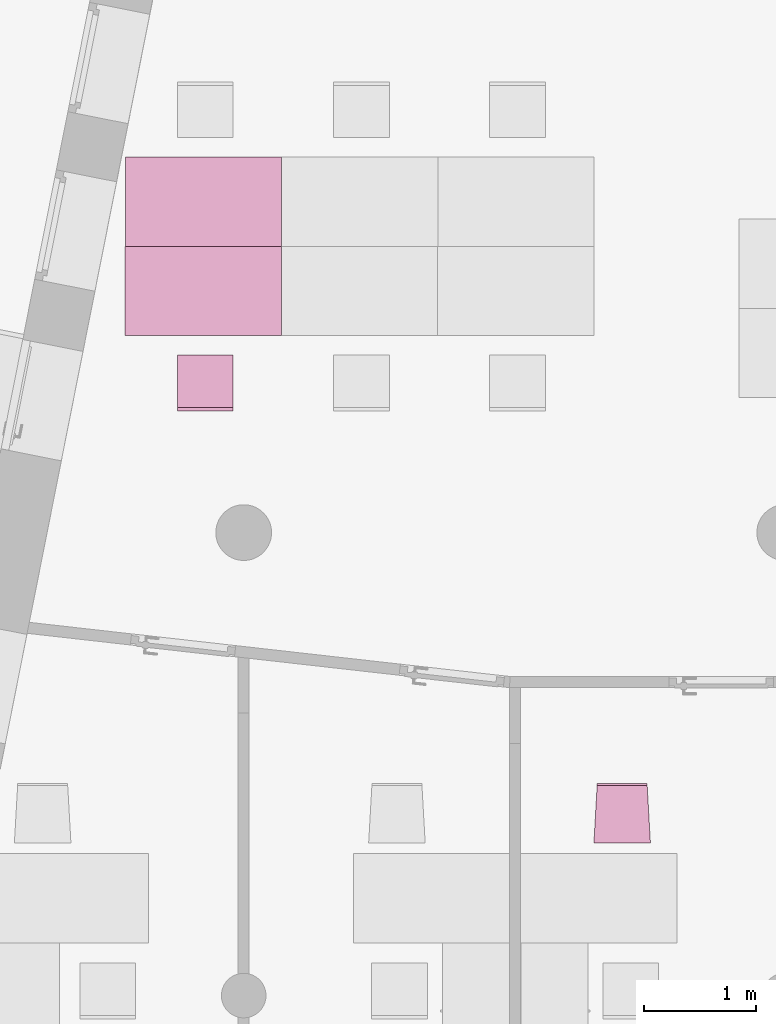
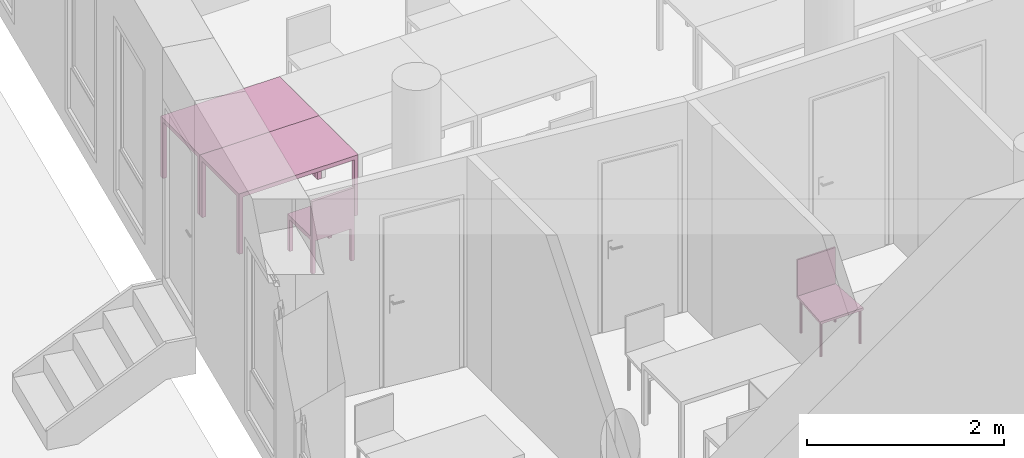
"""IFC4 building model written with IfcOpenShell, lengths in metres."""

from ifc_helpers import new_model, entity, si_unit, converted_unit, derived_unit, frame, origin, place, context, subcontext, project, spatial, faceted_brep, element, save


model = new_model("IFC4")

# Units and contexts
model_context = context("Model", 3, precision=1e-05, world=origin())
body_context = subcontext(model_context, "Body", "Model", "MODEL_VIEW")
ifc_project = project(units=[si_unit("LENGTHUNIT", "METRE"), si_unit("AREAUNIT", "SQUARE_METRE"), si_unit("VOLUMEUNIT", "CUBIC_METRE"), si_unit("MASSUNIT", "GRAM", prefix="KILO"), converted_unit("PLANEANGLEUNIT", "DEGREE", entity("IfcPlaneAngleMeasure", 0.0174532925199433), si_unit("PLANEANGLEUNIT", "RADIAN"), dimensions=[0, 0, 0, 0, 0, 0, 0]), derived_unit("THERMALTRANSMITTANCEUNIT", [(si_unit("POWERUNIT", "WATT"), 1), (si_unit("THERMODYNAMICTEMPERATUREUNIT", "KELVIN"), -1), (si_unit("LENGTHUNIT", "METRE"), -2)]), derived_unit("VOLUMETRICFLOWRATEUNIT", [(si_unit("LENGTHUNIT", "METRE"), 3), (converted_unit("TIMEUNIT", "hour", entity("IfcTimeMeasure", 3600.0), si_unit("TIMEUNIT", "SECOND"), dimensions=[0, 0, 1, 0, 0, 0, 0]), -1), (si_unit("LENGTHUNIT", "METRE"), -1)])], contexts=[model_context])

# Building, storeys
building_placement = place(None, origin())
building = spatial("IfcBuilding", under=ifc_project, at=building_placement, Name="HABITATGE PLURIFAMILIAR", CompositionType="ELEMENT")
storey_1_placement = place(building_placement, frame((0.0, 0.0, 6.25)))
storey_1 = spatial("IfcBuildingStorey", under=building, at=storey_1_placement, Name="PLANTA PRIMERA", CompositionType="ELEMENT", Elevation=6.25)
storey_2_placement = place(storey_1_placement, frame((0.0, 0.0, 3.35)))
storey_2 = spatial("IfcBuildingStorey", under=storey_1, at=storey_2_placement, Name="NOU", CompositionType="PARTIAL")

# Furniture
furniture_1_placement = place(storey_2_placement, frame((399.923590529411, 19.564860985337, -3.35)))
element("IfcFurniture", 1, at=furniture_1_placement, inside=storey_2, Name="Taula 140X80_P1", context=body_context, shape_type="Brep", body=[
    faceted_brep([(1.40000000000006, 0.05, 0.0), (1.35357142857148, 0.05, 0.0), (1.35357142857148, 0.0, 0.0), (1.40000000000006, 0.0, 0.0), (1.40000000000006, 0.0, 0.7), (1.35357142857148, 0.0, 0.7), (1.35357142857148, 0.05, 0.7), (1.40000000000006, 0.05, 0.7)], [[[0, 1, 2, 3]], [[4, 5, 6, 7]], [[3, 4, 7, 0]], [[2, 5, 4, 3]], [[1, 6, 5, 2]], [[0, 7, 6, 1]]], orient=[[False], [False], [False], [False], [False], [False]]),
    faceted_brep([(1.40000000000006, 0.800069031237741, 0.0), (1.35357142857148, 0.800069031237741, 0.0), (1.35357142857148, 0.750069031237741, 0.0), (1.40000000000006, 0.750069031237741, 0.0), (1.40000000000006, 0.750069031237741, 0.7), (1.35357142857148, 0.750069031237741, 0.7), (1.35357142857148, 0.800069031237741, 0.7), (1.40000000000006, 0.800069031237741, 0.7)], [[[0, 1, 2, 3]], [[4, 5, 6, 7]], [[3, 4, 7, 0]], [[2, 5, 4, 3]], [[1, 6, 5, 2]], [[0, 7, 6, 1]]], orient=[[False], [False], [False], [False], [False], [False]]),
    faceted_brep([(1.4, 0.800069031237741, 0.7), (0.0, 0.800069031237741, 0.7), (0.0, 0.0, 0.7), (1.4, 0.0, 0.7), (1.4, 0.0, 0.75), (0.0, 0.0, 0.75), (0.0, 0.800069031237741, 0.75), (1.4, 0.800069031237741, 0.75)], [[[0, 1, 2, 3]], [[4, 5, 6, 7]], [[3, 4, 7, 0]], [[2, 5, 4, 3]], [[1, 6, 5, 2]], [[0, 7, 6, 1]]], orient=[[False], [False], [False], [False], [False], [False]]),
    faceted_brep([(0.0464285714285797, 0.05, 0.0), (0.0, 0.05, 0.0), (0.0, 0.0, 0.0), (0.0464285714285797, 0.0, 0.0), (0.0464285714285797, 0.0, 0.7), (0.0, 0.0, 0.7), (0.0, 0.05, 0.7), (0.0464285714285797, 0.05, 0.7)], [[[0, 1, 2, 3]], [[4, 5, 6, 7]], [[3, 4, 7, 0]], [[2, 5, 4, 3]], [[1, 6, 5, 2]], [[0, 7, 6, 1]]], orient=[[False], [False], [False], [False], [False], [False]]),
    faceted_brep([(0.0464285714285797, 0.800069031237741, 0.0), (0.0, 0.800069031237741, 0.0), (0.0, 0.750069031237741, 0.0), (0.0464285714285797, 0.750069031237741, 0.0), (0.0464285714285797, 0.750069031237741, 0.7), (0.0, 0.750069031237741, 0.7), (0.0, 0.800069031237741, 0.7), (0.0464285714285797, 0.800069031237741, 0.7)], [[[0, 1, 2, 3]], [[4, 5, 6, 7]], [[3, 4, 7, 0]], [[2, 5, 4, 3]], [[1, 6, 5, 2]], [[0, 7, 6, 1]]], orient=[[False], [False], [False], [False], [False], [False]]),
])
furniture_2_placement = place(storey_2_placement, frame((399.925810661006, 20.3649300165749, -3.35)))
element("IfcFurniture", 2, at=furniture_2_placement, inside=storey_2, Name="Taula 140X80_P1", context=body_context, shape_type="Brep", body=[
    faceted_brep([(1.40000000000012, 0.05, 0.0), (1.35357142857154, 0.05, 0.0), (1.35357142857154, 0.0, 0.0), (1.40000000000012, 0.0, 0.0), (1.40000000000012, 0.0, 0.7), (1.35357142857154, 0.0, 0.7), (1.35357142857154, 0.05, 0.7), (1.40000000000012, 0.05, 0.7)], [[[0, 1, 2, 3]], [[4, 5, 6, 7]], [[3, 4, 7, 0]], [[2, 5, 4, 3]], [[1, 6, 5, 2]], [[0, 7, 6, 1]]], orient=[[False], [False], [False], [False], [False], [False]]),
    faceted_brep([(1.40000000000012, 0.800069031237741, 0.0), (1.35357142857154, 0.800069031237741, 0.0), (1.35357142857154, 0.750069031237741, 0.0), (1.40000000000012, 0.750069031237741, 0.0), (1.40000000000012, 0.750069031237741, 0.7), (1.35357142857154, 0.750069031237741, 0.7), (1.35357142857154, 0.800069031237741, 0.7), (1.40000000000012, 0.800069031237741, 0.7)], [[[0, 1, 2, 3]], [[4, 5, 6, 7]], [[3, 4, 7, 0]], [[2, 5, 4, 3]], [[1, 6, 5, 2]], [[0, 7, 6, 1]]], orient=[[False], [False], [False], [False], [False], [False]]),
    faceted_brep([(1.40000000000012, 0.800069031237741, 0.7), (0.0, 0.800069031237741, 0.7), (0.0, 0.0, 0.7), (1.40000000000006, 0.0, 0.7), (1.40000000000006, 0.0, 0.75), (0.0, 0.0, 0.75), (0.0, 0.800069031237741, 0.75), (1.40000000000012, 0.800069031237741, 0.75)], [[[0, 1, 2, 3]], [[4, 5, 6, 7]], [[3, 4, 7, 0]], [[2, 5, 4, 3]], [[1, 6, 5, 2]], [[0, 7, 6, 1]]], orient=[[False], [False], [False], [False], [False], [False]]),
    faceted_brep([(0.046428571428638, 0.05, 0.0), (0.0, 0.05, 0.0), (0.0, 0.0, 0.0), (0.046428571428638, 0.0, 0.0), (0.046428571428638, 0.0, 0.7), (0.0, 0.0, 0.7), (0.0, 0.05, 0.7), (0.046428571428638, 0.05, 0.7)], [[[0, 1, 2, 3]], [[4, 5, 6, 7]], [[3, 4, 7, 0]], [[2, 5, 4, 3]], [[1, 6, 5, 2]], [[0, 7, 6, 1]]], orient=[[False], [False], [False], [False], [False], [False]]),
    faceted_brep([(0.046428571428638, 0.800069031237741, 0.0), (0.0, 0.800069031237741, 0.0), (0.0, 0.750069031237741, 0.0), (0.046428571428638, 0.750069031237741, 0.0), (0.046428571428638, 0.750069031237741, 0.7), (0.0, 0.750069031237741, 0.7), (0.0, 0.800069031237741, 0.7), (0.046428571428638, 0.800069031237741, 0.7)], [[[0, 1, 2, 3]], [[4, 5, 6, 7]], [[3, 4, 7, 0]], [[2, 5, 4, 3]], [[1, 6, 5, 2]], [[0, 7, 6, 1]]], orient=[[False], [False], [False], [False], [False], [False]]),
])
furniture_3_placement = place(storey_2_placement, frame((400.391761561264, 18.8909073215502, -3.34942958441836)))
element("IfcFurniture", 3, at=furniture_3_placement, inside=storey_2, Name="Cadira d'Oficina_P1", context=body_context, shape_type="Brep", body=[
    faceted_brep([(0.5, 0.5, 0.4), (0.0, 0.5, 0.4), (0.0, 0.0, 0.4), (0.5, 0.0, 0.4), (0.5, 0.0, 0.45), (0.0, 0.0, 0.45), (0.0, 0.5, 0.45), (0.5, 0.5, 0.45)], [[[0, 1, 2, 3]], [[4, 5, 6, 7]], [[3, 4, 7, 0]], [[2, 5, 4, 3]], [[1, 6, 5, 2]], [[0, 7, 6, 1]]], orient=[[False], [False], [False], [False], [False], [False]]),
    faceted_brep([(0.0, 0.04, 0.0), (0.0, 0.0, 0.0), (0.04, 0.0, 0.0), (0.04, 0.04, 0.0), (0.04, 0.04, 0.4), (0.04, 0.0, 0.4), (0.0, 0.0, 0.4), (0.0, 0.04, 0.4)], [[[0, 1, 2, 3]], [[4, 5, 6, 7]], [[3, 4, 7, 0]], [[2, 5, 4, 3]], [[1, 6, 5, 2]], [[0, 7, 6, 1]]], orient=[[False], [False], [False], [False], [False], [False]]),
    faceted_brep([(0.0, 0.5, 0.0), (0.0, 0.46, 0.0), (0.04, 0.46, 0.0), (0.04, 0.5, 0.0), (0.04, 0.5, 0.4), (0.04, 0.46, 0.4), (0.0, 0.46, 0.4), (0.0, 0.5, 0.4)], [[[0, 1, 2, 3]], [[4, 5, 6, 7]], [[3, 4, 7, 0]], [[2, 5, 4, 3]], [[1, 6, 5, 2]], [[0, 7, 6, 1]]], orient=[[False], [False], [False], [False], [False], [False]]),
    faceted_brep([(0.46, 0.04, 0.0), (0.46, 0.0, 0.0), (0.5, 0.0, 0.0), (0.5, 0.04, 0.0), (0.5, 0.04, 0.4), (0.5, 0.0, 0.4), (0.46, 0.0, 0.4), (0.46, 0.04, 0.4)], [[[0, 1, 2, 3]], [[4, 5, 6, 7]], [[3, 4, 7, 0]], [[2, 5, 4, 3]], [[1, 6, 5, 2]], [[0, 7, 6, 1]]], orient=[[False], [False], [False], [False], [False], [False]]),
    faceted_brep([(0.46, 0.5, 0.0), (0.46, 0.46, 0.0), (0.5, 0.46, 0.0), (0.5, 0.5, 0.0), (0.5, 0.5, 0.4), (0.5, 0.46, 0.4), (0.46, 0.46, 0.4), (0.46, 0.5, 0.4)], [[[0, 1, 2, 3]], [[4, 5, 6, 7]], [[3, 4, 7, 0]], [[2, 5, 4, 3]], [[1, 6, 5, 2]], [[0, 7, 6, 1]]], orient=[[False], [False], [False], [False], [False], [False]]),
    faceted_brep([(0.0, 0.03, 0.45), (0.0, 0.0, 0.45), (0.5, 0.0, 0.45), (0.5, 0.03, 0.45), (0.5, 0.03, 0.9), (0.5, 0.0, 0.9), (0.0, 0.0, 0.9), (0.0, 0.03, 0.9)], [[[0, 1, 2, 3]], [[4, 5, 6, 7]], [[3, 4, 7, 0]], [[2, 5, 4, 3]], [[1, 6, 5, 2]], [[0, 7, 6, 1]]], orient=[[False], [False], [False], [False], [False], [False]]),
])
furniture_4_placement = place(storey_2_placement, frame((404.126126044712, 15.0183853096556, -3.35114412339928)))
element("IfcFurniture", 4, at=furniture_4_placement, inside=storey_2, Name="Cadira confient_P1", context=body_context, shape_type="Brep", body=[
    faceted_brep([(0.497227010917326, 0.0250324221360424, 0.0), (0.49701133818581, 0.0276273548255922, 0.0), (0.496348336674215, 0.0301454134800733, 0.0), (0.495258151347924, 0.0325100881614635, 0.0), (0.493773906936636, 0.0346495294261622, 0.0), (0.49194070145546, 0.0364987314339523, 0.0), (0.489814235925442, 0.0380015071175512, 0.0), (0.487459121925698, 0.0391121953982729, 0.0), (0.484946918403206, 0.0397970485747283, 0.0), (0.482353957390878, 0.0400352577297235, 0.0), (0.479759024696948, 0.0398195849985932, 0.0), (0.477240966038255, 0.0391565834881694, 0.0), (0.474876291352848, 0.0380663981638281, 0.0), (0.472736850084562, 0.0365821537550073, 0.0), (0.470887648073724, 0.0347489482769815, 0.0), (0.469384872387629, 0.0326224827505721, 0.0), (0.468274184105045, 0.0302673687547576, 0.0), (0.467589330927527, 0.0277551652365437, 0.0), (0.467351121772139, 0.0251622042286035, 0.0), (0.467566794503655, 0.0225672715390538, 0.0), (0.46822979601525, 0.0200492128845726, 0.0), (0.469319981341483, 0.0176845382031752, 0.0), (0.470804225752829, 0.0155450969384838, 0.0), (0.472637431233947, 0.0136958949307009, 0.0), (0.474763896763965, 0.012193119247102, 0.0), (0.477119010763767, 0.0110824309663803, 0.0), (0.479631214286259, 0.0103975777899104, 0.0), (0.482224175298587, 0.0101593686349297, 0.0), (0.484819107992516, 0.0103750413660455, 0.0), (0.48733716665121, 0.0110380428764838, 0.0), (0.489701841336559, 0.0121282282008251, 0.0), (0.491841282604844, 0.0136124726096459, 0.0), (0.493690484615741, 0.0154456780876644, 0.0), (0.495193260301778, 0.0175721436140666, 0.0), (0.49630394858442, 0.0199272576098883, 0.0), (0.496988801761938, 0.0224394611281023, 0.0), (0.497227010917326, 0.0250324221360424, 0.448281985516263), (0.496988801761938, 0.0224394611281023, 0.448281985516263), (0.49630394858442, 0.0199272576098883, 0.448281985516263), (0.495193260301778, 0.0175721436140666, 0.448281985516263), (0.493690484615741, 0.0154456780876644, 0.448281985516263), (0.491841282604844, 0.0136124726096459, 0.448281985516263), (0.489701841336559, 0.0121282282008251, 0.448281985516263), (0.48733716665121, 0.0110380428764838, 0.448281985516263), (0.484819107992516, 0.0103750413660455, 0.448281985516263), (0.482224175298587, 0.0101593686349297, 0.448281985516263), (0.479631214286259, 0.0103975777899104, 0.448281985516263), (0.477119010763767, 0.0110824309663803, 0.448281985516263), (0.474763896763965, 0.012193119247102, 0.448281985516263), (0.472637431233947, 0.0136958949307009, 0.448281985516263), (0.470804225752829, 0.0155450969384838, 0.448281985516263), (0.469319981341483, 0.0176845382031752, 0.448281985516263), (0.46822979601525, 0.0200492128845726, 0.448281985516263), (0.467566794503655, 0.0225672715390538, 0.448281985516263), (0.467351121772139, 0.0251622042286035, 0.448281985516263), (0.467589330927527, 0.0277551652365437, 0.448281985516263), (0.468274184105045, 0.0302673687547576, 0.448281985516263), (0.469384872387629, 0.0326224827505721, 0.448281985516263), (0.470887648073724, 0.0347489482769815, 0.448281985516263), (0.472736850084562, 0.0365821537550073, 0.448281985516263), (0.474876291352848, 0.0380663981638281, 0.448281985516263), (0.477240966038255, 0.0391565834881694, 0.448281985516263), (0.479759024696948, 0.0398195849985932, 0.448281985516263), (0.482353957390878, 0.0400352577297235, 0.448281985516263), (0.484946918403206, 0.0397970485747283, 0.448281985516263), (0.487459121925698, 0.0391121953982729, 0.448281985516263), (0.489814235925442, 0.0380015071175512, 0.448281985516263), (0.49194070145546, 0.0364987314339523, 0.448281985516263), (0.493773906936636, 0.0346495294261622, 0.448281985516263), (0.495258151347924, 0.0325100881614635, 0.448281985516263), (0.496348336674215, 0.0301454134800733, 0.448281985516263), (0.49701133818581, 0.0276273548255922, 0.448281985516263)], [[[0, 1, 2, 3, 4, 5, 6, 7, 8, 9, 10, 11, 12, 13, 14, 15, 16, 17, 18, 19, 20, 21, 22, 23, 24, 25, 26, 27, 28, 29, 30, 31, 32, 33, 34, 35]], [[36, 37, 38, 39, 40, 41, 42, 43, 44, 45, 46, 47, 48, 49, 50, 51, 52, 53, 54, 55, 56, 57, 58, 59, 60, 61, 62, 63, 64, 65, 66, 67, 68, 69, 70, 71]], [[1, 0, 36, 71]], [[2, 1, 71, 70]], [[3, 2, 70, 69]], [[4, 3, 69, 68]], [[5, 4, 68, 67]], [[6, 5, 67, 66]], [[7, 6, 66, 65]], [[8, 7, 65, 64]], [[9, 8, 64, 63]], [[10, 9, 63, 62]], [[11, 10, 62, 61]], [[12, 11, 61, 60]], [[13, 12, 60, 59]], [[14, 13, 59, 58]], [[15, 14, 58, 57]], [[16, 15, 57, 56]], [[17, 16, 56, 55]], [[18, 17, 55, 54]], [[19, 18, 54, 53]], [[20, 19, 53, 52]], [[21, 20, 52, 51]], [[22, 21, 51, 50]], [[23, 22, 50, 49]], [[24, 23, 49, 48]], [[25, 24, 48, 47]], [[26, 25, 47, 46]], [[27, 26, 46, 45]], [[28, 27, 45, 44]], [[29, 28, 44, 43]], [[30, 29, 43, 42]], [[31, 30, 42, 41]], [[32, 31, 41, 40]], [[33, 32, 40, 39]], [[34, 33, 39, 38]], [[35, 34, 38, 37]], [[0, 35, 37, 36]]], orient=[[False], [False], [False], [False], [False], [False], [False], [False], [False], [False], [False], [False], [False], [False], [False], [False], [False], [False], [False], [False], [False], [False], [False], [False], [False], [False], [False], [False], [False], [False], [False], [False], [False], [False], [False], [False], [False], [False]]),
    faceted_brep([(0.469589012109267, 0.487439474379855, 0.0), (0.469373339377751, 0.490034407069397, 0.0), (0.468710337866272, 0.492552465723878, 0.0), (0.467620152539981, 0.494917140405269, 0.0), (0.466135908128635, 0.497056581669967, 0.0), (0.464302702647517, 0.498905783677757, 0.0), (0.462176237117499, 0.500408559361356, 0.0), (0.459821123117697, 0.501519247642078, 0.0), (0.457308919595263, 0.502204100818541, 0.0), (0.454715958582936, 0.502442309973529, 0.0), (0.452121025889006, 0.502226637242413, 0.0), (0.449602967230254, 0.501563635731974, 0.0), (0.447238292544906, 0.500473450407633, 0.0), (0.44509885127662, 0.498989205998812, 0.0), (0.443249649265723, 0.497156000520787, 0.0), (0.441746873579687, 0.495029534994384, 0.0), (0.440636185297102, 0.49267442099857, 0.0), (0.439951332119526, 0.490162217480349, 0.0), (0.439713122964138, 0.487569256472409, 0.0), (0.439928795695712, 0.484974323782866, 0.0), (0.440591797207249, 0.482456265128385, 0.0), (0.441681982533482, 0.480091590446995, 0.0), (0.443166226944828, 0.477952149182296, 0.0), (0.444999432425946, 0.476102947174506, 0.0), (0.447125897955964, 0.474600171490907, 0.0), (0.449481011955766, 0.473489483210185, 0.0), (0.451993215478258, 0.47280463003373, 0.0), (0.454586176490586, 0.472566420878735, 0.0), (0.457181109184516, 0.472782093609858, 0.0), (0.45969916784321, 0.473445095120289, 0.0), (0.462063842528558, 0.47453528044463, 0.0), (0.464203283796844, 0.476019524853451, 0.0), (0.466052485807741, 0.477852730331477, 0.0), (0.467555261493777, 0.479979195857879, 0.0), (0.468665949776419, 0.482334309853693, 0.0), (0.469350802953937, 0.484846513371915, 0.0), (0.469589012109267, 0.487439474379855, 0.448281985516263), (0.469350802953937, 0.484846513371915, 0.448281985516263), (0.468665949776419, 0.482334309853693, 0.448281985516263), (0.467555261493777, 0.479979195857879, 0.448281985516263), (0.466052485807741, 0.477852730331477, 0.448281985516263), (0.464203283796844, 0.476019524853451, 0.448281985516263), (0.462063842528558, 0.47453528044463, 0.448281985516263), (0.45969916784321, 0.473445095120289, 0.448281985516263), (0.457181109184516, 0.472782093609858, 0.448281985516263), (0.454586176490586, 0.472566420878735, 0.448281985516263), (0.451993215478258, 0.47280463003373, 0.448281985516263), (0.449481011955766, 0.473489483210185, 0.448281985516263), (0.447125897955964, 0.474600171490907, 0.448281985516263), (0.444999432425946, 0.476102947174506, 0.448281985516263), (0.443166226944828, 0.477952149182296, 0.448281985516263), (0.441681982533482, 0.480091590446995, 0.448281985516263), (0.440591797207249, 0.482456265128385, 0.448281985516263), (0.439928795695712, 0.484974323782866, 0.448281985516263), (0.439713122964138, 0.487569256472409, 0.448281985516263), (0.439951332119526, 0.490162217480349, 0.448281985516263), (0.440636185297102, 0.49267442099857, 0.448281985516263), (0.441746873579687, 0.495029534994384, 0.448281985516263), (0.443249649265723, 0.497156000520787, 0.448281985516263), (0.44509885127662, 0.498989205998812, 0.448281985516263), (0.447238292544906, 0.500473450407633, 0.448281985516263), (0.449602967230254, 0.501563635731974, 0.448281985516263), (0.452121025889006, 0.502226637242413, 0.448281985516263), (0.454715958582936, 0.502442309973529, 0.448281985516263), (0.457308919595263, 0.502204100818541, 0.448281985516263), (0.459821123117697, 0.501519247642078, 0.448281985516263), (0.462176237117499, 0.500408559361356, 0.448281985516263), (0.464302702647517, 0.498905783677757, 0.448281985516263), (0.466135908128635, 0.497056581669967, 0.448281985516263), (0.467620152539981, 0.494917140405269, 0.448281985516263), (0.468710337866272, 0.492552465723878, 0.448281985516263), (0.469373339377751, 0.490034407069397, 0.448281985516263)], [[[0, 1, 2, 3, 4, 5, 6, 7, 8, 9, 10, 11, 12, 13, 14, 15, 16, 17, 18, 19, 20, 21, 22, 23, 24, 25, 26, 27, 28, 29, 30, 31, 32, 33, 34, 35]], [[36, 37, 38, 39, 40, 41, 42, 43, 44, 45, 46, 47, 48, 49, 50, 51, 52, 53, 54, 55, 56, 57, 58, 59, 60, 61, 62, 63, 64, 65, 66, 67, 68, 69, 70, 71]], [[1, 0, 36, 71]], [[2, 1, 71, 70]], [[3, 2, 70, 69]], [[4, 3, 69, 68]], [[5, 4, 68, 67]], [[6, 5, 67, 66]], [[7, 6, 66, 65]], [[8, 7, 65, 64]], [[9, 8, 64, 63]], [[10, 9, 63, 62]], [[11, 10, 62, 61]], [[12, 11, 61, 60]], [[13, 12, 60, 59]], [[14, 13, 59, 58]], [[15, 14, 58, 57]], [[16, 15, 57, 56]], [[17, 16, 56, 55]], [[18, 17, 55, 54]], [[19, 18, 54, 53]], [[20, 19, 53, 52]], [[21, 20, 52, 51]], [[22, 21, 51, 50]], [[23, 22, 50, 49]], [[24, 23, 49, 48]], [[25, 24, 48, 47]], [[26, 25, 47, 46]], [[27, 26, 46, 45]], [[28, 27, 45, 44]], [[29, 28, 44, 43]], [[30, 29, 43, 42]], [[31, 30, 42, 41]], [[32, 31, 41, 40]], [[33, 32, 40, 39]], [[34, 33, 39, 38]], [[35, 34, 38, 37]], [[0, 35, 37, 36]]], orient=[[False], [False], [False], [False], [False], [False], [False], [False], [False], [False], [False], [False], [False], [False], [False], [False], [False], [False], [False], [False], [False], [False], [False], [False], [False], [False], [False], [False], [False], [False], [False], [False], [False], [False], [False], [False], [False], [False]]),
    faceted_brep([(0.0372270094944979, 0.0250324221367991, 0.0), (0.0370113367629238, 0.0276273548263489, 0.0), (0.0363483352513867, 0.0301454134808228, 0.0), (0.0352581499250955, 0.0325100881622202, 0.0), (0.0337739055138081, 0.0346495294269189, 0.0), (0.0319407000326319, 0.0364987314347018, 0.0), (0.0298142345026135, 0.0380015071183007, 0.0), (0.0274591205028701, 0.0391121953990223, 0.0), (0.0249469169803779, 0.039797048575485, 0.0), (0.0223539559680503, 0.040035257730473, 0.0), (0.0197590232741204, 0.0398195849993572, 0.0), (0.0172409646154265, 0.0391565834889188, 0.0), (0.0148762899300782, 0.0380663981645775, 0.0), (0.0127368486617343, 0.0365821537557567, 0.0), (0.0108876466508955, 0.0347489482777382, 0.0), (0.00938487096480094, 0.0326224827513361, 0.0), (0.00827418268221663, 0.0302673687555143, 0.0), (0.00758932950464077, 0.0277551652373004, 0.0), (0.0073511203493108, 0.0251622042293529, 0.0), (0.00756679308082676, 0.0225672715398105, 0.0), (0.00822979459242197, 0.0200492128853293, 0.0), (0.00931997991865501, 0.0176845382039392, 0.0), (0.0108042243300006, 0.0155450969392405, 0.0), (0.0126374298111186, 0.0136958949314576, 0.0), (0.0147638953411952, 0.0121931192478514, 0.0), (0.0171190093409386, 0.0110824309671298, 0.0), (0.0196312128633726, 0.0103975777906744, 0.0), (0.0222241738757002, 0.0101593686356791, 0.0), (0.0248191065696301, 0.0103750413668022, 0.0), (0.0273371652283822, 0.0110380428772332, 0.0), (0.0297018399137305, 0.0121282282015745, 0.0), (0.0318412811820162, 0.0136124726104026, 0.0), (0.0336904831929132, 0.0154456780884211, 0.0), (0.0351932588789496, 0.0175721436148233, 0.0), (0.0363039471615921, 0.0199272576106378, 0.0), (0.0369888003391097, 0.022439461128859, 0.0), (0.0372270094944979, 0.0250324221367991, 0.448281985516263), (0.0369888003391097, 0.022439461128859, 0.448281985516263), (0.0363039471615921, 0.0199272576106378, 0.448281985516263), (0.0351932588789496, 0.0175721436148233, 0.448281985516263), (0.0336904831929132, 0.0154456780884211, 0.448281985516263), (0.0318412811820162, 0.0136124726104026, 0.448281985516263), (0.0297018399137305, 0.0121282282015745, 0.448281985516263), (0.0273371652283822, 0.0110380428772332, 0.448281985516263), (0.0248191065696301, 0.0103750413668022, 0.448281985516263), (0.0222241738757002, 0.0101593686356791, 0.448281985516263), (0.0196312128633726, 0.0103975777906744, 0.448281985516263), (0.0171190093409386, 0.0110824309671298, 0.448281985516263), (0.0147638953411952, 0.0121931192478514, 0.448281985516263), (0.0126374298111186, 0.0136958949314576, 0.448281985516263), (0.0108042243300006, 0.0155450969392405, 0.448281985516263), (0.00931997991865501, 0.0176845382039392, 0.448281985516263), (0.00822979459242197, 0.0200492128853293, 0.448281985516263), (0.00756679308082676, 0.0225672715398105, 0.448281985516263), (0.0073511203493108, 0.0251622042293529, 0.448281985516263), (0.00758932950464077, 0.0277551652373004, 0.448281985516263), (0.00827418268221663, 0.0302673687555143, 0.448281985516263), (0.00938487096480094, 0.0326224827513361, 0.448281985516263), (0.0108876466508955, 0.0347489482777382, 0.448281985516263), (0.0127368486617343, 0.0365821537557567, 0.448281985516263), (0.0148762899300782, 0.0380663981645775, 0.448281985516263), (0.0172409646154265, 0.0391565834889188, 0.448281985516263), (0.0197590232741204, 0.0398195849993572, 0.448281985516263), (0.0223539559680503, 0.040035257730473, 0.448281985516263), (0.0249469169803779, 0.039797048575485, 0.448281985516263), (0.0274591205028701, 0.0391121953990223, 0.448281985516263), (0.0298142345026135, 0.0380015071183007, 0.448281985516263), (0.0319407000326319, 0.0364987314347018, 0.448281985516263), (0.0337739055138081, 0.0346495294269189, 0.448281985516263), (0.0352581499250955, 0.0325100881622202, 0.448281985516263), (0.0363483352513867, 0.0301454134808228, 0.448281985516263), (0.0370113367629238, 0.0276273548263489, 0.448281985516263)], [[[0, 1, 2, 3, 4, 5, 6, 7, 8, 9, 10, 11, 12, 13, 14, 15, 16, 17, 18, 19, 20, 21, 22, 23, 24, 25, 26, 27, 28, 29, 30, 31, 32, 33, 34, 35]], [[36, 37, 38, 39, 40, 41, 42, 43, 44, 45, 46, 47, 48, 49, 50, 51, 52, 53, 54, 55, 56, 57, 58, 59, 60, 61, 62, 63, 64, 65, 66, 67, 68, 69, 70, 71]], [[1, 0, 36, 71]], [[2, 1, 71, 70]], [[3, 2, 70, 69]], [[4, 3, 69, 68]], [[5, 4, 68, 67]], [[6, 5, 67, 66]], [[7, 6, 66, 65]], [[8, 7, 65, 64]], [[9, 8, 64, 63]], [[10, 9, 63, 62]], [[11, 10, 62, 61]], [[12, 11, 61, 60]], [[13, 12, 60, 59]], [[14, 13, 59, 58]], [[15, 14, 58, 57]], [[16, 15, 57, 56]], [[17, 16, 56, 55]], [[18, 17, 55, 54]], [[19, 18, 54, 53]], [[20, 19, 53, 52]], [[21, 20, 52, 51]], [[22, 21, 51, 50]], [[23, 22, 50, 49]], [[24, 23, 49, 48]], [[25, 24, 48, 47]], [[26, 25, 47, 46]], [[27, 26, 46, 45]], [[28, 27, 45, 44]], [[29, 28, 44, 43]], [[30, 29, 43, 42]], [[31, 30, 42, 41]], [[32, 31, 41, 40]], [[33, 32, 40, 39]], [[34, 33, 39, 38]], [[35, 34, 38, 37]], [[0, 35, 37, 36]]], orient=[[False], [False], [False], [False], [False], [False], [False], [False], [False], [False], [False], [False], [False], [False], [False], [False], [False], [False], [False], [False], [False], [False], [False], [False], [False], [False], [False], [False], [False], [False], [False], [False], [False], [False], [False], [False], [False], [False]]),
    faceted_brep([(0.0695890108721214, 0.487439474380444, 0.0), (0.0693733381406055, 0.490034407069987, 0.0), (0.0687103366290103, 0.492552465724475, 0.0), (0.0676201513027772, 0.494917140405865, 0.0), (0.0661359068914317, 0.497056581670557, 0.0), (0.0643027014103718, 0.498905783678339, 0.0), (0.0621762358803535, 0.500408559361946, 0.0), (0.0598211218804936, 0.501519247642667, 0.0), (0.0573089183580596, 0.50220410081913, 0.0), (0.054715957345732, 0.502442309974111, 0.0), (0.0521210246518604, 0.502226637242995, 0.0), (0.04960296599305, 0.501563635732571, 0.0), (0.0472382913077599, 0.50047345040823, 0.0), (0.0450988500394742, 0.498989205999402, 0.0), (0.043249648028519, 0.497156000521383, 0.0), (0.0417468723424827, 0.495029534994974, 0.0), (0.0406361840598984, 0.492674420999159, 0.0), (0.0399513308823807, 0.490162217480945, 0.0), (0.0397131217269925, 0.487569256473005, 0.0), (0.0399287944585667, 0.484974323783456, 0.0), (0.0405917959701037, 0.482456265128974, 0.0), (0.0416819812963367, 0.480091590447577, 0.0), (0.0431662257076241, 0.477952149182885, 0.0), (0.0449994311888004, 0.476102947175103, 0.0), (0.0471258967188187, 0.474600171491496, 0.0), (0.0494810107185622, 0.473489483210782, 0.0), (0.0519932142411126, 0.472804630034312, 0.0), (0.054586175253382, 0.472566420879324, 0.0), (0.0571811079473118, 0.472782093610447, 0.0), (0.0596991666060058, 0.473445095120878, 0.0), (0.0620638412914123, 0.474535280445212, 0.0), (0.064203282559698, 0.47601952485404, 0.0), (0.0660524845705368, 0.477852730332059, 0.0), (0.0675552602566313, 0.479979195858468, 0.0), (0.0686659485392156, 0.48233430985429, 0.0), (0.0693508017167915, 0.484846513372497, 0.0), (0.0695890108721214, 0.487439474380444, 0.448281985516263), (0.0693508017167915, 0.484846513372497, 0.448281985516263), (0.0686659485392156, 0.48233430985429, 0.448281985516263), (0.0675552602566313, 0.479979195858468, 0.448281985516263), (0.0660524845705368, 0.477852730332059, 0.448281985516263), (0.064203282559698, 0.47601952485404, 0.448281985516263), (0.0620638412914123, 0.474535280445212, 0.448281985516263), (0.0596991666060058, 0.473445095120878, 0.448281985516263), (0.0571811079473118, 0.472782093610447, 0.448281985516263), (0.054586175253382, 0.472566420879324, 0.448281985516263), (0.0519932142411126, 0.472804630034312, 0.448281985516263), (0.0494810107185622, 0.473489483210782, 0.448281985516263), (0.0471258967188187, 0.474600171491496, 0.448281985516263), (0.0449994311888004, 0.476102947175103, 0.448281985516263), (0.0431662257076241, 0.477952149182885, 0.448281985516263), (0.0416819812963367, 0.480091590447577, 0.448281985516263), (0.0405917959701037, 0.482456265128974, 0.448281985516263), (0.0399287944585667, 0.484974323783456, 0.448281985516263), (0.0397131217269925, 0.487569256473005, 0.448281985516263), (0.0399513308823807, 0.490162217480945, 0.448281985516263), (0.0406361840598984, 0.492674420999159, 0.448281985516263), (0.0417468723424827, 0.495029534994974, 0.448281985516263), (0.043249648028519, 0.497156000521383, 0.448281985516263), (0.0450988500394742, 0.498989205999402, 0.448281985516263), (0.0472382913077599, 0.50047345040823, 0.448281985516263), (0.04960296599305, 0.501563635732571, 0.448281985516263), (0.0521210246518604, 0.502226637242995, 0.448281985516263), (0.054715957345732, 0.502442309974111, 0.448281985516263), (0.0573089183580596, 0.50220410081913, 0.448281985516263), (0.0598211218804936, 0.501519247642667, 0.448281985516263), (0.0621762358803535, 0.500408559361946, 0.448281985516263), (0.0643027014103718, 0.498905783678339, 0.448281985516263), (0.0661359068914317, 0.497056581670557, 0.448281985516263), (0.0676201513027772, 0.494917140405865, 0.448281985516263), (0.0687103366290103, 0.492552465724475, 0.448281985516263), (0.0693733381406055, 0.490034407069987, 0.448281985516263)], [[[0, 1, 2, 3, 4, 5, 6, 7, 8, 9, 10, 11, 12, 13, 14, 15, 16, 17, 18, 19, 20, 21, 22, 23, 24, 25, 26, 27, 28, 29, 30, 31, 32, 33, 34, 35]], [[36, 37, 38, 39, 40, 41, 42, 43, 44, 45, 46, 47, 48, 49, 50, 51, 52, 53, 54, 55, 56, 57, 58, 59, 60, 61, 62, 63, 64, 65, 66, 67, 68, 69, 70, 71]], [[1, 0, 36, 71]], [[2, 1, 71, 70]], [[3, 2, 70, 69]], [[4, 3, 69, 68]], [[5, 4, 68, 67]], [[6, 5, 67, 66]], [[7, 6, 66, 65]], [[8, 7, 65, 64]], [[9, 8, 64, 63]], [[10, 9, 63, 62]], [[11, 10, 62, 61]], [[12, 11, 61, 60]], [[13, 12, 60, 59]], [[14, 13, 59, 58]], [[15, 14, 58, 57]], [[16, 15, 57, 56]], [[17, 16, 56, 55]], [[18, 17, 55, 54]], [[19, 18, 54, 53]], [[20, 19, 53, 52]], [[21, 20, 52, 51]], [[22, 21, 51, 50]], [[23, 22, 50, 49]], [[24, 23, 49, 48]], [[25, 24, 48, 47]], [[26, 25, 47, 46]], [[27, 26, 46, 45]], [[28, 27, 45, 44]], [[29, 28, 44, 43]], [[30, 29, 43, 42]], [[31, 30, 42, 41]], [[32, 31, 41, 40]], [[33, 32, 40, 39]], [[34, 33, 39, 38]], [[35, 34, 38, 37]], [[0, 35, 37, 36]]], orient=[[False], [False], [False], [False], [False], [False], [False], [False], [False], [False], [False], [False], [False], [False], [False], [False], [False], [False], [False], [False], [False], [False], [False], [False], [False], [False], [False], [False], [False], [False], [False], [False], [False], [False], [False], [False], [False], [False]]),
    faceted_brep([(0.0300000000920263, 0.532607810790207, 0.418281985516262), (0.0, 0.0, 0.418281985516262), (0.506514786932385, 0.0, 0.418281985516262), (0.476514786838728, 0.532607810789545, 0.418281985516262), (0.0, 0.0, 0.448281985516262), (0.0300000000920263, 0.532607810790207, 0.448281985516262), (0.476514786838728, 0.532607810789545, 0.448281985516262), (0.506514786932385, 0.0, 0.448281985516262)], [[[0, 1, 2, 3]], [[4, 5, 6, 7]], [[1, 0, 5, 4]], [[2, 1, 4, 7]], [[3, 2, 7, 6]], [[0, 3, 6, 5]]], orient=[[False], [False], [False], [False], [False], [False]]),
    faceted_brep([(0.0300000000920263, 0.512607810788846, 0.448281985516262), (0.476514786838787, 0.512607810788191, 0.448281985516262), (0.476514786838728, 0.532607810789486, 0.448281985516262), (0.0300000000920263, 0.532607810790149, 0.448281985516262), (0.476514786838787, 0.512607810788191, 0.898281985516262), (0.0300000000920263, 0.512607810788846, 0.898281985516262), (0.0300000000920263, 0.532607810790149, 0.898281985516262), (0.476514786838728, 0.532607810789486, 0.898281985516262)], [[[0, 1, 2, 3]], [[4, 5, 6, 7]], [[1, 0, 5, 4]], [[2, 1, 4, 7]], [[3, 2, 7, 6]], [[0, 3, 6, 5]]], orient=[[False], [False], [False], [False], [False], [False]]),
])

save(model, "model.ifc")
